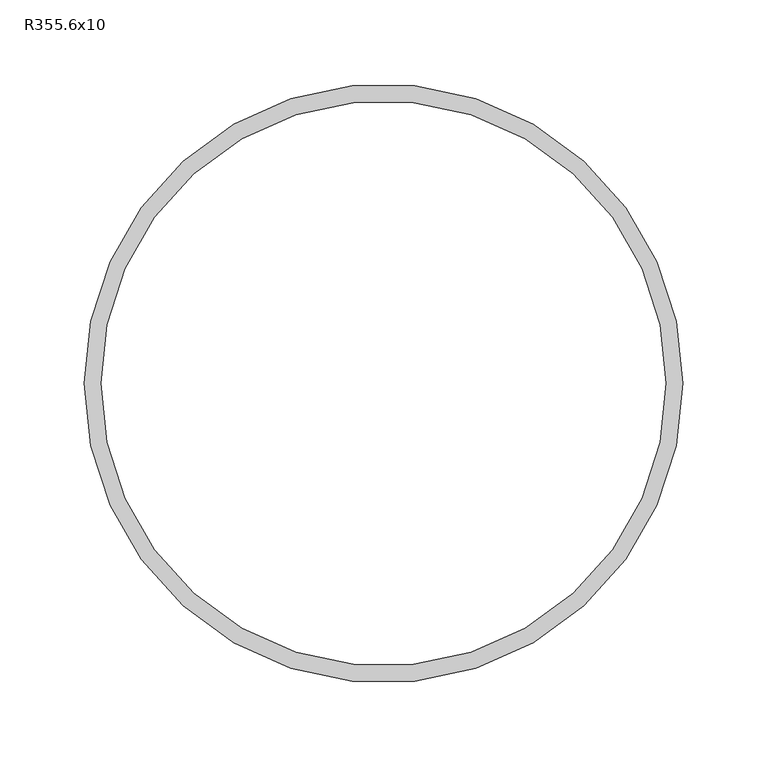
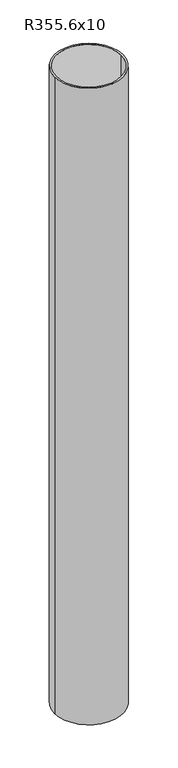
"""IFC4 building model written with IfcOpenShell, lengths in millimetres: column geometry, RPLN RO - Rury okragle_Column : R355.6x10."""

from ifc_helpers import new_model, si_unit, point, origin, origin_with_axes, origin_2d, place, context, project, spatial, circle_curve, trimmed, segment, composite_curve, outline, extrude, source, transform, mapped, element, save


def r355_6x10_7112e704(model_context):
    return source(origin(), model_context, "Body", "SweptSolid", [
        extrude(outline(composite_curve([segment(trimmed(circle_curve(origin_2d(), 177.8), [point((-177.8, 0.0))], [point((177.8, 0.0))], False, "CARTESIAN"), True, "CONTINUOUS"), segment(trimmed(circle_curve(origin_2d(), 177.8), [point((177.8, 0.0))], [point((-177.8, 0.0))], False, "CARTESIAN"), True, "CONTINUOUS")], self_intersect=False), holes=[composite_curve([segment(trimmed(circle_curve(origin_2d(), 167.8), [point((-167.8, 0.0))], [point((167.8, 0.0))], True, "CARTESIAN"), True, "CONTINUOUS"), segment(trimmed(circle_curve(origin_2d(), 167.8), [point((167.8, 0.0))], [point((-167.8, 0.0))], True, "CARTESIAN"), True, "CONTINUOUS")], self_intersect=False)]), origin_with_axes(), (0.0, 0.0, 1.0), 3504.0),
    ])


if __name__ == "__main__":
    model = new_model("IFC4")
    model_context = context("Model", 3, world=origin())
    ifc_project = project(units=[si_unit("LENGTHUNIT", "METRE", prefix="MILLI")], contexts=[model_context])
    site = spatial("IfcSite", under=ifc_project)
    building = spatial("IfcBuilding", under=site)
    placement = place(None, origin())
    r355_6x10_shape = r355_6x10_7112e704(model_context)
    element("IfcColumn", 1, ObjectType="RPLN RO - Rury okragle_Column : R355.6x10", at=placement, inside=building, context=model_context, shape_type="MappedRepresentation", body=[
        mapped(r355_6x10_shape, transform((0.0, 0.0, 0.0), x_axis=(1.0, 0.0, 0.0), y_axis=(0.0, 1.0, 0.0), z_axis=(0.0, 0.0, 1.0))),
    ])
    save(model, "model.ifc")
